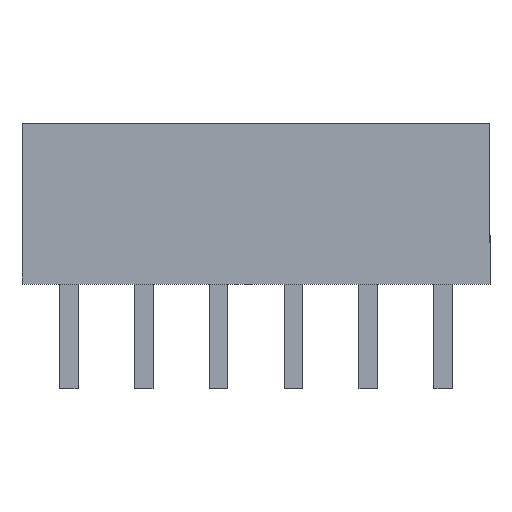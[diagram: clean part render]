
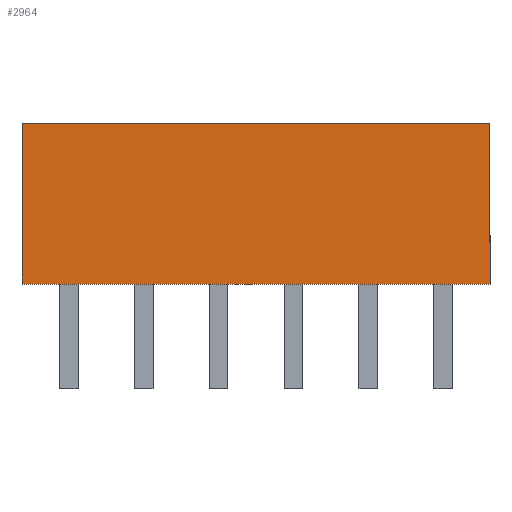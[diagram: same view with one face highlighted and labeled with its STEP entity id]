
A CAD part, top view. The second image highlights one B-rep face of the part: STEP entity #2964.
In plain terms, the highlighted planar face has unit normal (0, 0, 1).
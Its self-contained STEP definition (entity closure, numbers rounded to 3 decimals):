
#212 = LINE ( 'NONE', #1481, #644 ) ;
#218 = VERTEX_POINT ( 'NONE', #3609 ) ;
#475 = DIRECTION ( 'NONE',  ( -1., 0., 0. ) ) ;
#501 = ORIENTED_EDGE ( 'NONE', *, *, #3515, .T. ) ;
#552 = FACE_OUTER_BOUND ( 'NONE', #3768, .T. ) ;
#644 = VECTOR ( 'NONE', #1179, 1000. ) ;
#659 = CARTESIAN_POINT ( 'NONE',  ( -1.689, -2.436, 1.2 ) ) ;
#956 = DIRECTION ( 'NONE',  ( 0., 0., 1. ) ) ;
#1090 = LINE ( 'NONE', #3740, #3061 ) ;
#1131 = AXIS2_PLACEMENT_3D ( 'NONE', #1943, #956, #3893 ) ;
#1179 = DIRECTION ( 'NONE',  ( 0., -1., 0. ) ) ;
#1272 = VECTOR ( 'NONE', #2307, 1000. ) ;
#1323 = EDGE_CURVE ( 'NONE', #1860, #218, #3325, .T. ) ;
#1425 = CARTESIAN_POINT ( 'NONE',  ( -1.689, 1.864, 1.2 ) ) ;
#1481 = CARTESIAN_POINT ( 'NONE',  ( 10.811, 1.864, 1.2 ) ) ;
#1581 = PLANE ( 'NONE',  #1131 ) ;
#1860 = VERTEX_POINT ( 'NONE', #1425 ) ;
#1900 = VECTOR ( 'NONE', #3307, 1000. ) ;
#1943 = CARTESIAN_POINT ( 'NONE',  ( 0., 0., 1.2 ) ) ;
#2220 = EDGE_CURVE ( 'NONE', #4085, #3093, #212, .T. ) ;
#2307 = DIRECTION ( 'NONE',  ( 1., 0., 0. ) ) ;
#2964 = ADVANCED_FACE ( 'NONE', ( #552 ), #1581, .T. ) ;
#3061 = VECTOR ( 'NONE', #475, 1000. ) ;
#3093 = VERTEX_POINT ( 'NONE', #3724 ) ;
#3101 = LINE ( 'NONE', #659, #1272 ) ;
#3160 = EDGE_CURVE ( 'NONE', #218, #3093, #3101, .T. ) ;
#3303 = ORIENTED_EDGE ( 'NONE', *, *, #3160, .T. ) ;
#3307 = DIRECTION ( 'NONE',  ( 0., -1., 0. ) ) ;
#3308 = CARTESIAN_POINT ( 'NONE',  ( 10.811, 1.864, 1.2 ) ) ;
#3325 = LINE ( 'NONE', #3348, #1900 ) ;
#3348 = CARTESIAN_POINT ( 'NONE',  ( -1.689, 1.864, 1.2 ) ) ;
#3515 = EDGE_CURVE ( 'NONE', #4085, #1860, #1090, .T. ) ;
#3609 = CARTESIAN_POINT ( 'NONE',  ( -1.689, -2.436, 1.2 ) ) ;
#3724 = CARTESIAN_POINT ( 'NONE',  ( 10.811, -2.436, 1.2 ) ) ;
#3740 = CARTESIAN_POINT ( 'NONE',  ( -1.689, 1.864, 1.2 ) ) ;
#3768 = EDGE_LOOP ( 'NONE', ( #3303, #4012, #501, #3777 ) ) ;
#3777 = ORIENTED_EDGE ( 'NONE', *, *, #1323, .T. ) ;
#3893 = DIRECTION ( 'NONE',  ( 1., 0., 0. ) ) ;
#4012 = ORIENTED_EDGE ( 'NONE', *, *, #2220, .F. ) ;
#4085 = VERTEX_POINT ( 'NONE', #3308 ) ;
